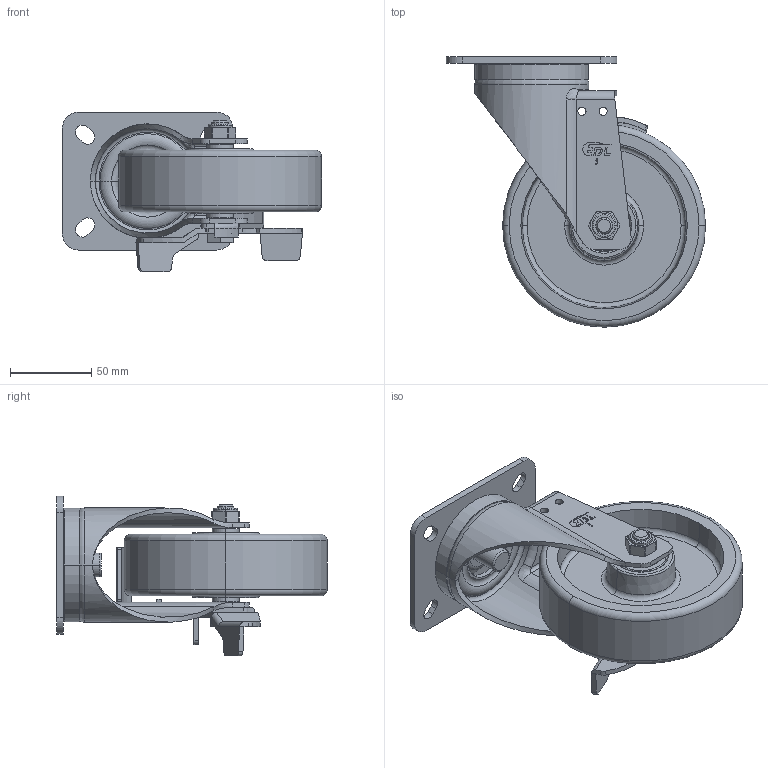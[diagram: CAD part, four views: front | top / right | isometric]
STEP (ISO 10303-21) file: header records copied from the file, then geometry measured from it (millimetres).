
FILE_DESCRIPTION((''),'2;1');
FILE_NAME('66125C_ASM_1_ASM','2024-04-27T',('Lenovo'),(''),'PRO/ENGINEER BY PARAMETRIC TECHNOLOGY CORPORATION, 2010280','PRO/ENGINEER BY PARAMETRIC TECHNOLOGY CORPORATION, 2010280','');
FILE_SCHEMA(('CONFIG_CONTROL_DESIGN'));
Length unit declared in the file: millimetre
Products named in the file (29): 6610-201_1; 6615-311_4; 6610-051_1; 6600-734_1; 675-986A_3; MANIFOLD_SOLID_BREP_15429; MANIFOLD_SOLID_BREP_15797; MANIFOLD_SOLID_BREP_15835; MANIFOLD_SOLID_BREP_15873; MANIFOLD_SOLID_BREP_15911; MANIFOLD_SOLID_BREP_15949; MANIFOLD_SOLID_BREP_15987; MANIFOLD_SOLID_BREP_16025; MANIFOLD_SOLID_BREP_16063; MANIFOLD_SOLID_BREP_16101; MANIFOLD_SOLID_BREP_16139; MANIFOLD_SOLID_BREP_16177; MANIFOLD_SOLID_BREP_16215; MANIFOLD_SOLID_BREP_16253; MANIFOLD_SOLID_BREP_16291; 6201_1_ASM; 500-66_3; 630-54A_1; 675-86A_ASM_1_ASM; 6415-503_3; 6410-502_1; 6410-020C_2; 630-34_4; 66125C_ASM_1_ASM
Assembly tree (30 placements, depth 4):
  66125C_ASM_1_ASM
    6610-201_1
    6615-311_4
    6610-051_1
    6600-734_1
    675-86A_ASM_1_ASM
      675-986A_3
      6201_1_ASM  x2
        MANIFOLD_SOLID_BREP_15429
        MANIFOLD_SOLID_BREP_15797
        MANIFOLD_SOLID_BREP_15835
        MANIFOLD_SOLID_BREP_15873
        MANIFOLD_SOLID_BREP_15911
        MANIFOLD_SOLID_BREP_15949
        MANIFOLD_SOLID_BREP_15987
        MANIFOLD_SOLID_BREP_16025
        MANIFOLD_SOLID_BREP_16063
        MANIFOLD_SOLID_BREP_16101
        MANIFOLD_SOLID_BREP_16139
        MANIFOLD_SOLID_BREP_16177
        MANIFOLD_SOLID_BREP_16215
        MANIFOLD_SOLID_BREP_16253
        MANIFOLD_SOLID_BREP_16291
      500-66_3  x2
      630-54A_1
    6415-503_3
    6410-502_1
    6410-020C_2
    630-34_4
Bounding box: 159.6 x 166.5 x 98.5 mm (x, y, z)
Volume: 353970.7 mm3; surface area: 148138.3 mm2
Topology: 42 solids, 42 shells, 613 faces, 1629 edges, 1013 vertices
Faces by surface type: plane 235, cylinder 171, sphere 80, torus 73, cone 46, bspline 8
Entity records: 18667 total; most frequent: CARTESIAN_POINT 4435, DIRECTION 3147, ORIENTED_EDGE 2738, EDGE_CURVE 1369, AXIS2_PLACEMENT_3D 1247, VERTEX_POINT 904, VECTOR 653, LINE 653
